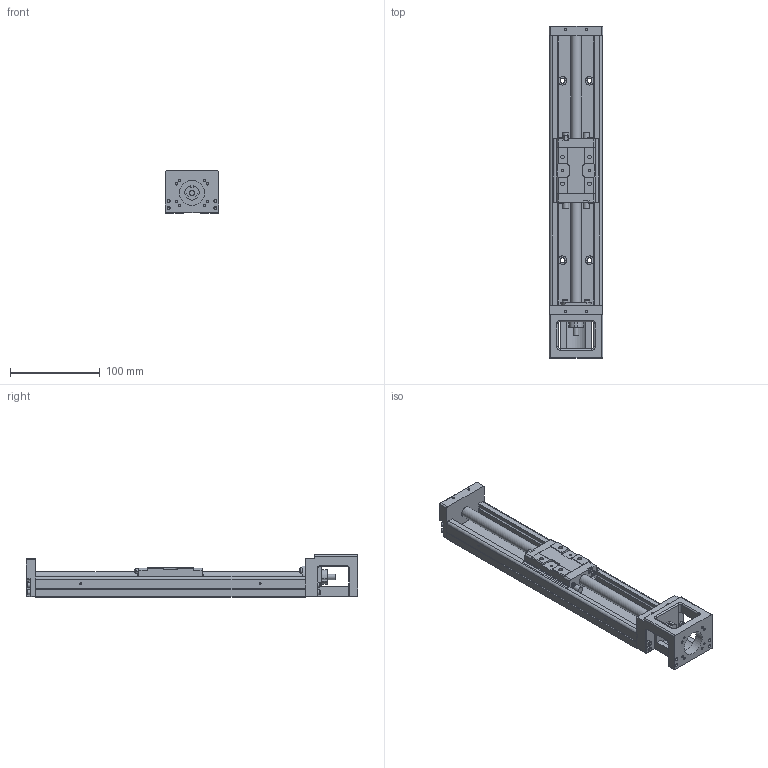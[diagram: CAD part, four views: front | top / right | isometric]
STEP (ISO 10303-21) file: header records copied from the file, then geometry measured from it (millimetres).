
FILE_DESCRIPTION(/* description */ (''),/* implementation_level */ '2;1');
FILE_NAME(/* name */ 'FKL60E210 05(10)C7.stp',/* time_stamp */ '2019-01-30T11:13:11+08:00',/* author */ (''),/* organization */ (''),/* preprocessor_version */ 'ST-DEVELOPER v16',/* originating_system */ 'SIEMENS PLM Software NX 10.0',/* authorisation */ '');
FILE_SCHEMA (('AUTOMOTIVE_DESIGN { 1 0 10303 214 3 1 1 1 }'));
Length unit declared in the file: millimetre
Products named in the file (3): 滑台.KK60.90-A1; 轨道.KK60-300; FKL60E210 05(10)C7
Assembly tree (2 placements, depth 2):
  FKL60E210 05(10)C7
    轨道.KK60-300
    滑台.KK60.90-A1
Bounding box: 60 x 370 x 47 mm (x, y, z)
Volume: 409834.3 mm3; surface area: 115399 mm2
Topology: 2 solids, 2 shells, 492 faces, 1261 edges, 818 vertices
Faces by surface type: plane 307, cylinder 141, torus 22, cone 13, sphere 9
Full cylindrical faces by diameter (mm): 2.05 x4, 2.5 x14, 3.3 x1, 3.5 x4, 4.2 x4, 5.5 x14, 6 x5, 7 x4, 9.5 x6, 11 x1, 12 x2, 28 x1
Entity records: 14404 total; most frequent: CARTESIAN_POINT 2456, DIRECTION 2436, ORIENTED_EDGE 2248, EDGE_CURVE 1124, AXIS2_PLACEMENT_3D 827, LINE 782, VECTOR 782, VERTEX_POINT 767
